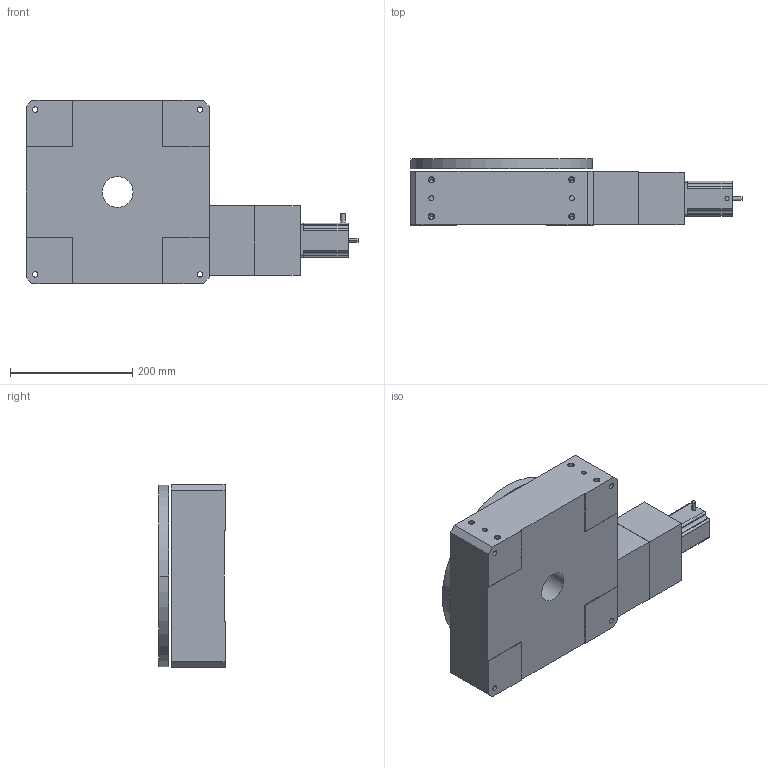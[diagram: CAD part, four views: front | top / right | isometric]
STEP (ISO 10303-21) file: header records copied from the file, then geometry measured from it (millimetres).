
FILE_DESCRIPTION((''),'2;1');
FILE_NAME('R300M9MP3E0_ASM','2009-07-02T',('FK20128'),(''),'PRO/ENGINEER BY PARAMETRIC TECHNOLOGY CORPORATION, 2006200','PRO/ENGINEER BY PARAMETRIC TECHNOLOGY CORPORATION, 2006200','');
FILE_SCHEMA(('CONFIG_CONTROL_DESIGN'));
Length unit declared in the file: millimetre
Products named in the file (4): R300M; R300M-M22; RXXXM-HV233; R300M9MP3E0_ASM
Assembly tree (3 placements, depth 2):
  R300M9MP3E0_ASM
    R300M
    R300M-M22
    RXXXM-HV233
Bounding box: 543.64 x 108.13 x 300 mm (x, y, z)
Volume: 10255354.1 mm3; surface area: 584660.8 mm2
Topology: 4 solids, 22 shells, 273 faces, 686 edges, 452 vertices
Faces by surface type: cylinder 156, plane 95, cone 22
Entity records: 8378 total; most frequent: DIRECTION 1586, CARTESIAN_POINT 1402, ORIENTED_EDGE 1260, EDGE_CURVE 666, AXIS2_PLACEMENT_3D 636, VERTEX_POINT 452, EDGE_LOOP 362, CIRCLE 352
